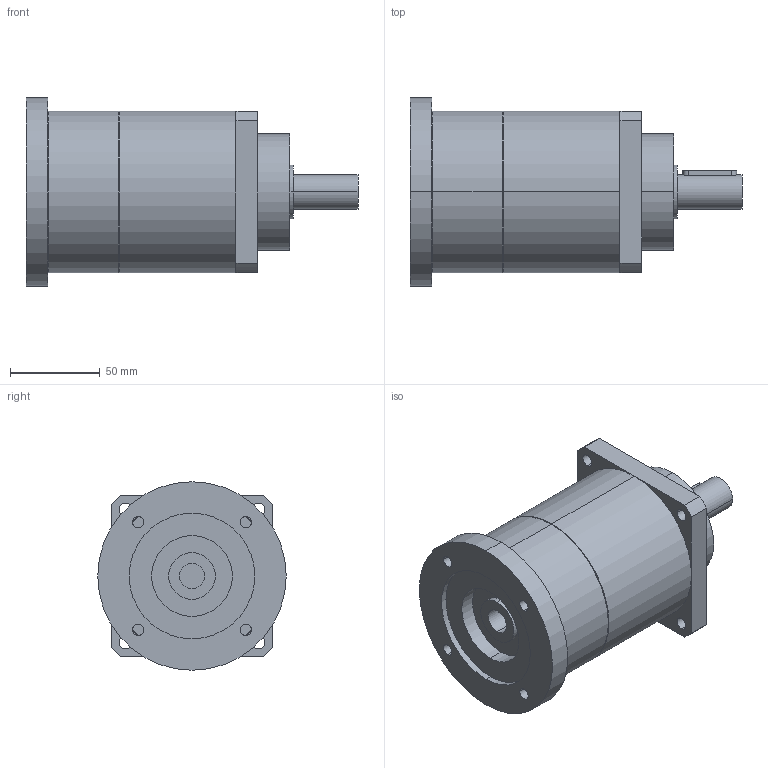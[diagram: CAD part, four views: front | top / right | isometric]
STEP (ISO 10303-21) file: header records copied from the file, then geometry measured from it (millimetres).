
FILE_DESCRIPTION(('CoCreate Modeling STEP Export'),'2;1');
FILE_NAME('GPT90_ig-9-12-16-20-25-28-35-40-50-70-100_19_B5T_14_P04.stp','2015-02-04T11:29:09',(''),(''),'CoCreate Modeling STEP processor for AP214 (Solid Model)','CoCreate Modeling 16.00C 25-Feb-2009 (C) Parametric Technology GmbH','');
FILE_SCHEMA(('AUTOMOTIVE_DESIGN { 1 0 10303 214 1 1 1 1 }'));
Length unit declared in the file: millimetre
Products named in the file (2): GPT90_ig-9-12-16-20-25-28-35-40-50-70-100_19_B5T_14_P04
Assembly tree (1 placements, depth 2):
  GPT90_ig-9-12-16-20-25-28-35-40-50-70-100_19_B5T_14_P04
    GPT90_ig-9-12-16-20-25-28-35-40-50-70-100_19_B5T_14_P04
Bounding box: 185 x 105 x 105 mm (x, y, z)
Volume: 905501.2 mm3; surface area: 70853.3 mm2
Topology: 1 solids, 1 shells, 75 faces, 205 edges, 138 vertices
Faces by surface type: cylinder 44, plane 27, cone 4
Entity records: 2477 total; most frequent: CARTESIAN_POINT 717, ORIENTED_EDGE 410, DIRECTION 294, EDGE_CURVE 205, VERTEX_POINT 138, AXIS2_PLACEMENT_3D 112, EDGE_LOOP 97, FACE_OUTER_BOUND 75
